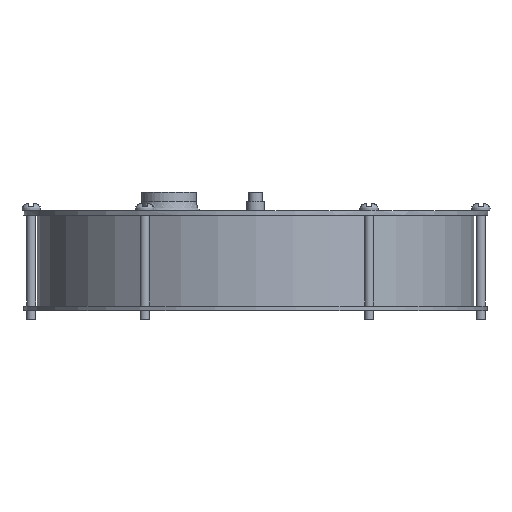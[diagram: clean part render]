
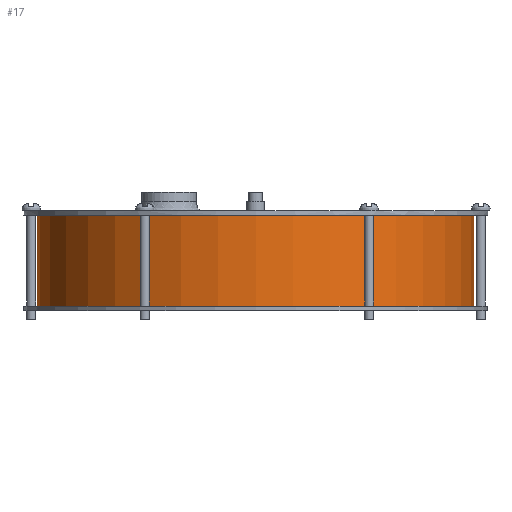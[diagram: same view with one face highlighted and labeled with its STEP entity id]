
A CAD part, front view. The second image highlights one B-rep face of the part: STEP entity #17.
In plain terms, the highlighted cylindrical face has radius 48 mm (diameter 96 mm), a full revolution.
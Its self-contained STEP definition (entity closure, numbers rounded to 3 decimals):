
#17 = ADVANCED_FACE('',(#18),#32,.T.);
#18 = FACE_BOUND('',#19,.F.);
#19 = EDGE_LOOP('',(#20,#50,#77,#78));
#20 = ORIENTED_EDGE('',*,*,#21,.T.);
#21 = EDGE_CURVE('',#22,#24,#26,.T.);
#22 = VERTEX_POINT('',#23);
#23 = CARTESIAN_POINT('',(48.,0.,3.));
#24 = VERTEX_POINT('',#25);
#25 = CARTESIAN_POINT('',(48.,0.,23.));
#26 = SEAM_CURVE('',#27,(#31,#43),.PCURVE_S1.);
#27 = LINE('',#28,#29);
#28 = CARTESIAN_POINT('',(48.,0.,3.));
#29 = VECTOR('',#30,1.);
#30 = DIRECTION('',(0.,0.,1.));
#31 = PCURVE('',#32,#37);
#32 = CYLINDRICAL_SURFACE('',#33,48.);
#33 = AXIS2_PLACEMENT_3D('',#34,#35,#36);
#34 = CARTESIAN_POINT('',(0.,0.,3.));
#35 = DIRECTION('',(-0.,-0.,-1.));
#36 = DIRECTION('',(1.,0.,0.));
#37 = DEFINITIONAL_REPRESENTATION('',(#38),#42);
#38 = LINE('',#39,#40);
#39 = CARTESIAN_POINT('',(-0.,0.));
#40 = VECTOR('',#41,1.);
#41 = DIRECTION('',(-0.,-1.));
#42 = ( GEOMETRIC_REPRESENTATION_CONTEXT(2) 
PARAMETRIC_REPRESENTATION_CONTEXT() REPRESENTATION_CONTEXT('2D SPACE',''
  ) );
#43 = PCURVE('',#32,#44);
#44 = DEFINITIONAL_REPRESENTATION('',(#45),#49);
#45 = LINE('',#46,#47);
#46 = CARTESIAN_POINT('',(-6.283,0.));
#47 = VECTOR('',#48,1.);
#48 = DIRECTION('',(-0.,-1.));
#49 = ( GEOMETRIC_REPRESENTATION_CONTEXT(2) 
PARAMETRIC_REPRESENTATION_CONTEXT() REPRESENTATION_CONTEXT('2D SPACE',''
  ) );
#50 = ORIENTED_EDGE('',*,*,#51,.T.);
#51 = EDGE_CURVE('',#24,#24,#52,.T.);
#52 = SURFACE_CURVE('',#53,(#58,#65),.PCURVE_S1.);
#53 = CIRCLE('',#54,48.);
#54 = AXIS2_PLACEMENT_3D('',#55,#56,#57);
#55 = CARTESIAN_POINT('',(0.,0.,23.));
#56 = DIRECTION('',(0.,0.,1.));
#57 = DIRECTION('',(1.,0.,0.));
#58 = PCURVE('',#32,#59);
#59 = DEFINITIONAL_REPRESENTATION('',(#60),#64);
#60 = LINE('',#61,#62);
#61 = CARTESIAN_POINT('',(-0.,-20.));
#62 = VECTOR('',#63,1.);
#63 = DIRECTION('',(-1.,0.));
#64 = ( GEOMETRIC_REPRESENTATION_CONTEXT(2) 
PARAMETRIC_REPRESENTATION_CONTEXT() REPRESENTATION_CONTEXT('2D SPACE',''
  ) );
#65 = PCURVE('',#66,#71);
#66 = PLANE('',#67);
#67 = AXIS2_PLACEMENT_3D('',#68,#69,#70);
#68 = CARTESIAN_POINT('',(0.,0.,23.));
#69 = DIRECTION('',(0.,0.,1.));
#70 = DIRECTION('',(1.,0.,0.));
#71 = DEFINITIONAL_REPRESENTATION('',(#72),#76);
#72 = CIRCLE('',#73,48.);
#73 = AXIS2_PLACEMENT_2D('',#74,#75);
#74 = CARTESIAN_POINT('',(0.,0.));
#75 = DIRECTION('',(1.,0.));
#76 = ( GEOMETRIC_REPRESENTATION_CONTEXT(2) 
PARAMETRIC_REPRESENTATION_CONTEXT() REPRESENTATION_CONTEXT('2D SPACE',''
  ) );
#77 = ORIENTED_EDGE('',*,*,#21,.F.);
#78 = ORIENTED_EDGE('',*,*,#79,.F.);
#79 = EDGE_CURVE('',#22,#22,#80,.T.);
#80 = SURFACE_CURVE('',#81,(#86,#93),.PCURVE_S1.);
#81 = CIRCLE('',#82,48.);
#82 = AXIS2_PLACEMENT_3D('',#83,#84,#85);
#83 = CARTESIAN_POINT('',(0.,0.,3.));
#84 = DIRECTION('',(0.,0.,1.));
#85 = DIRECTION('',(1.,0.,0.));
#86 = PCURVE('',#32,#87);
#87 = DEFINITIONAL_REPRESENTATION('',(#88),#92);
#88 = LINE('',#89,#90);
#89 = CARTESIAN_POINT('',(-0.,0.));
#90 = VECTOR('',#91,1.);
#91 = DIRECTION('',(-1.,0.));
#92 = ( GEOMETRIC_REPRESENTATION_CONTEXT(2) 
PARAMETRIC_REPRESENTATION_CONTEXT() REPRESENTATION_CONTEXT('2D SPACE',''
  ) );
#93 = PCURVE('',#94,#99);
#94 = PLANE('',#95);
#95 = AXIS2_PLACEMENT_3D('',#96,#97,#98);
#96 = CARTESIAN_POINT('',(0.,0.,3.));
#97 = DIRECTION('',(0.,0.,1.));
#98 = DIRECTION('',(1.,0.,0.));
#99 = DEFINITIONAL_REPRESENTATION('',(#100),#104);
#100 = CIRCLE('',#101,48.);
#101 = AXIS2_PLACEMENT_2D('',#102,#103);
#102 = CARTESIAN_POINT('',(0.,0.));
#103 = DIRECTION('',(1.,0.));
#104 = ( GEOMETRIC_REPRESENTATION_CONTEXT(2) 
PARAMETRIC_REPRESENTATION_CONTEXT() REPRESENTATION_CONTEXT('2D SPACE',''
  ) );
